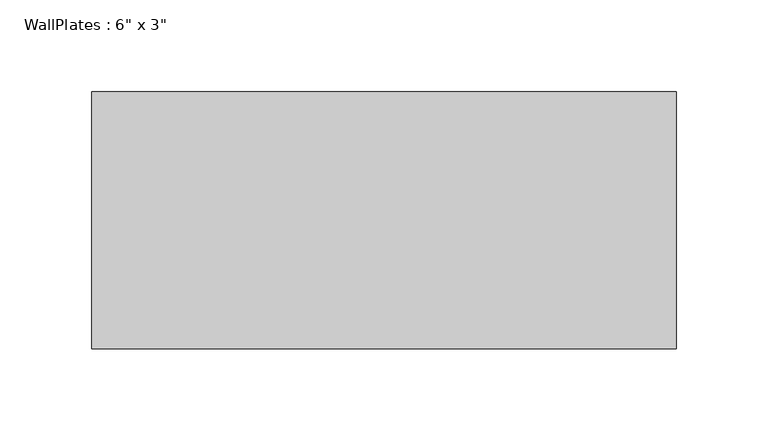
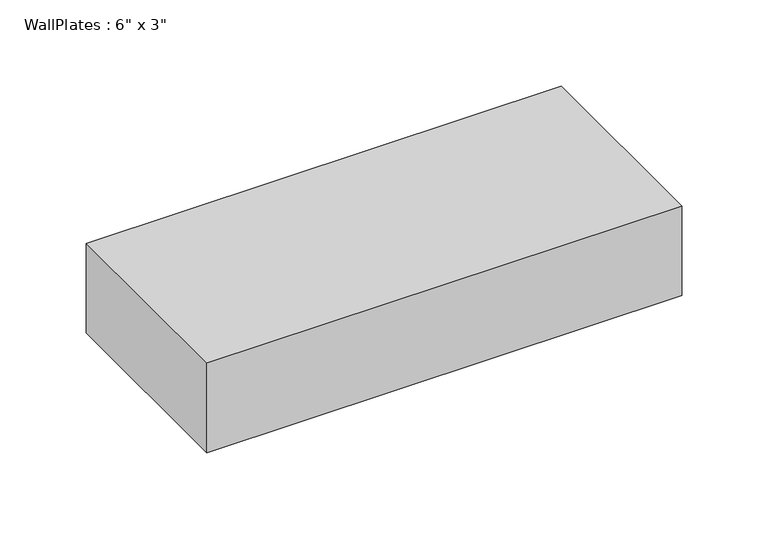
"""IFC4 building model written with IfcOpenShell, lengths in millimetres: beam geometry."""

from ifc_helpers import new_model, si_unit, frame, origin, place, context, project, spatial, polyline, outline, extrude, source, transform, mapped, element, save


def beam_57e885f1(model_context):
    return source(origin(), model_context, "Body", "SweptSolid", [
        extrude(outline(polyline([(-158.755, -69.85), (-158.755, 69.85), (158.755, 69.85), (158.755, -69.85), (-158.755, -69.85)])), frame((0.0, 0.0, -31.75), z_axis=(0.0, 0.0, 1.0), x_axis=(1.0, 0.0, 0.0)), (0.0, 0.0, 1.0), 63.5),
    ])


if __name__ == "__main__":
    model = new_model("IFC4")
    model_context = context("Model", 3, world=origin())
    ifc_project = project(units=[si_unit("LENGTHUNIT", "METRE", prefix="MILLI")], contexts=[model_context])
    site = spatial("IfcSite", under=ifc_project)
    building = spatial("IfcBuilding", under=site)
    placement = place(None, origin())
    beam_shape = beam_57e885f1(model_context)
    element("IfcBeam", 1, ObjectType="WallPlates : 6\" x 3\"", at=placement, inside=building, context=model_context, shape_type="MappedRepresentation", body=[
        mapped(beam_shape, transform((0.0, 0.0, 0.0), x_axis=(1.0, 0.0, 0.0), y_axis=(0.0, 1.0, 0.0), z_axis=(0.0, 0.0, 1.0))),
    ])
    save(model, "model.ifc")
